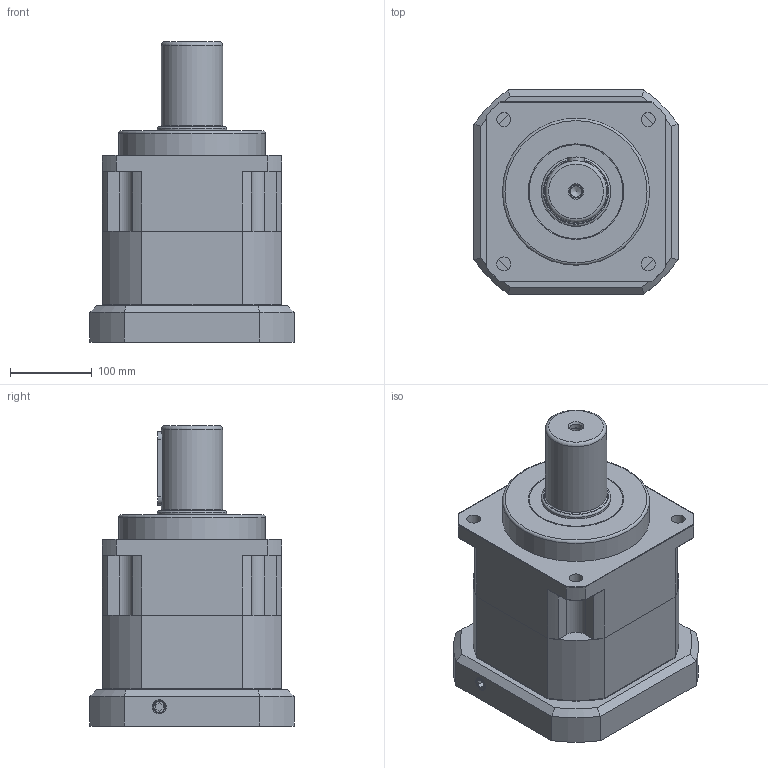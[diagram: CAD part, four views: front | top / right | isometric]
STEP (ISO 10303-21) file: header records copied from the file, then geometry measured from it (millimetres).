
FILE_DESCRIPTION((''),'2;1');
FILE_NAME('C:\Work\감속기 카다로그 도면\Li-Ming (11-08-22) 2D-3D\STEP\홈피\KSB\KSB-220-1.stp','2012-02-14T16:03:03',('young'),(''),'Autodesk Inventor 2012','Autodesk Inventor 2012','');
FILE_SCHEMA(('AUTOMOTIVE_DESIGN { 1 0 10303 214 1 1 1 1 }'));
Length unit declared in the file: millimetre
Products named in the file (1): KSB-220-1
Bounding box: 250 x 250 x 367.5 mm (x, y, z)
Volume: 8373747.7 mm3; surface area: 777754 mm2
Topology: 16 solids, 16 shells, 592 faces, 1467 edges, 937 vertices
Faces by surface type: plane 273, cylinder 200, cone 70, bspline 33, torus 16
Full cylindrical faces by diameter (mm): 8.6 x1, 10 x1, 10.2 x12, 11 x1, 12 x4, 13 x12, 14 x1, 14.275 x2, 14.5 x2, 16 x2, 17 x4, 18 x4, 19 x4, 60 x1, 66 x1, 68 x1, 72.2 x1, 74.8 x1, 75 x1, 84.8 x1, 85 x1, 90 x2, 95 x1, 115 x2, 155 x1, 180 x1, 200 x2
Entity records: 18888 total; most frequent: CARTESIAN_POINT 5296, DIRECTION 2840, ORIENTED_EDGE 2622, EDGE_CURVE 1311, AXIS2_PLACEMENT_3D 1096, VERTEX_POINT 907, EDGE_LOOP 796, VECTOR 648
